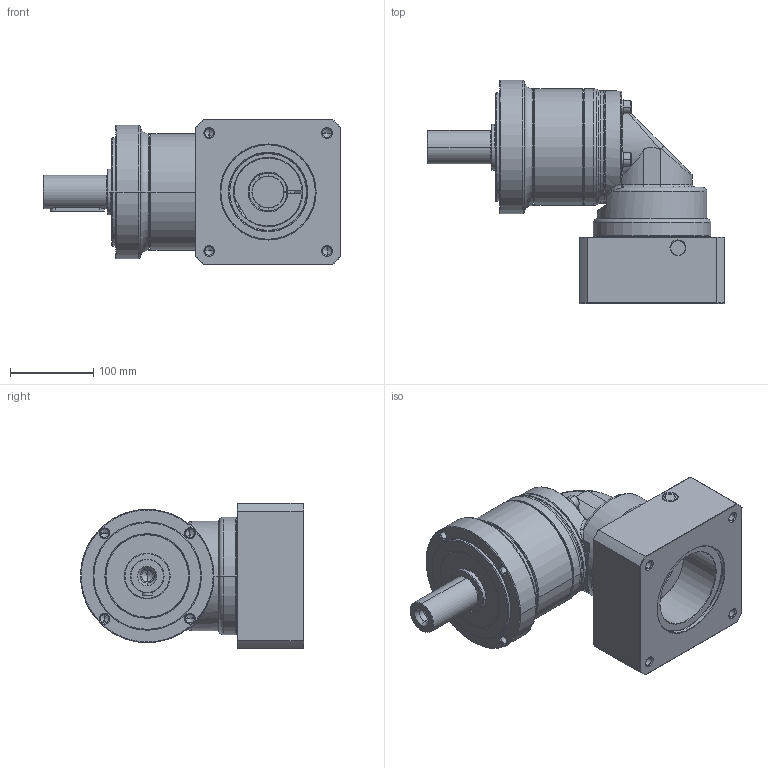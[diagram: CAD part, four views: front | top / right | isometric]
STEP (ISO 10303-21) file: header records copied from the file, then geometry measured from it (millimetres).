
FILE_DESCRIPTION((''),'2;1');
FILE_NAME('PG2R-160_1ST_38-P0411900101_ASM','2016-04-26T',('d01943'),(''),'PRO/ENGINEER BY PARAMETRIC TECHNOLOGY CORPORATION, 2008410','PRO/ENGINEER BY PARAMETRIC TECHNOLOGY CORPORATION, 2008410','');
FILE_SCHEMA(('CONFIG_CONTROL_DESIGN'));
Length unit declared in the file: millimetre
Products named in the file (12): P1325510001; P0250500001; P0350501103; P1349500001; P1017500001; P0713505001; P0503900010; P1350500501; P0411900101; P1702600001; 2111BA10040; PG2R-160_1ST_38-P0411900101_ASM
Assembly tree (14 placements, depth 2):
  PG2R-160_1ST_38-P0411900101_ASM
    P1325510001
    P0250500001
    P0350501103
    P1349500001
    P1017500001
    P0713505001
    P0503900010
    P1350500501
    P0411900101
    P1702600001
    2111BA10040  x4
Bounding box: 356.5 x 267.5 x 174 mm (x, y, z)
Volume: 4461303.5 mm3; surface area: 563905.5 mm2
Topology: 14 solids, 15 shells, 702 faces, 1545 edges, 898 vertices
Faces by surface type: cylinder 215, cone 196, plane 157, torus 102, bspline 32
Entity records: 22518 total; most frequent: CARTESIAN_POINT 8984, DIRECTION 3001, ORIENTED_EDGE 2614, EDGE_CURVE 1307, AXIS2_PLACEMENT_3D 1270, VERTEX_POINT 778, EDGE_LOOP 681, CIRCLE 673
